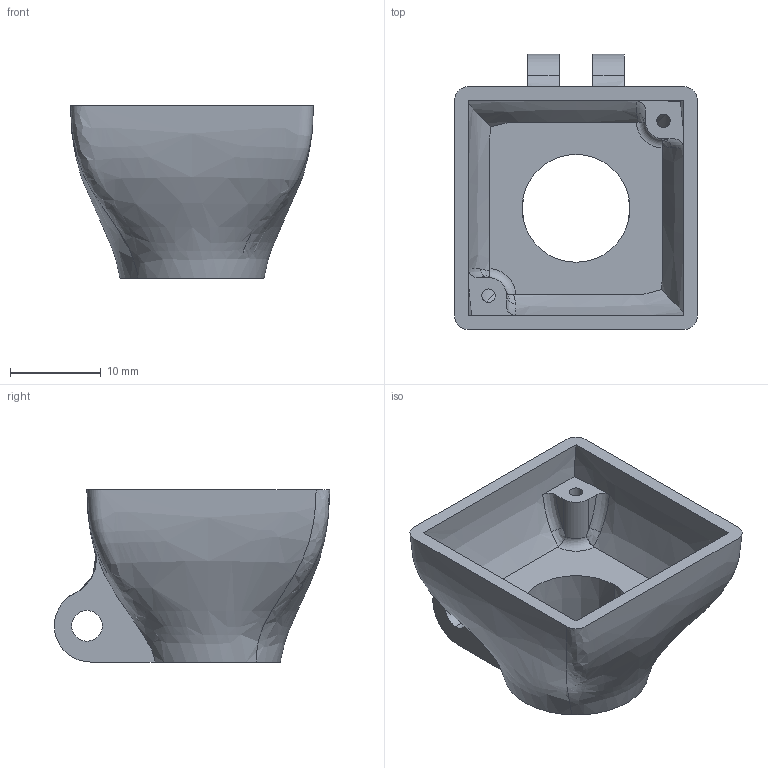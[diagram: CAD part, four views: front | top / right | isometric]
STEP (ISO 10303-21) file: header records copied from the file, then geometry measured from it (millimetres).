
FILE_DESCRIPTION (( 'STEP AP214' ), '1' );
FILE_NAME ('Camera Housing.STEP', '2016-04-20T22:06:43', ( 'Mark' ), ( 'Project-OS.org' ), 'SwSTEP 2.0', 'SolidWorks 2015', '' );
FILE_SCHEMA (( 'AUTOMOTIVE_DESIGN' ));
Length unit declared in the file: millimetre
Products named in the file (1): Camera Housing
Bounding box: 26.8 x 30.4 x 19 mm (x, y, z)
Volume: 3660.5 mm3; surface area: 3897.2 mm2
Topology: 1 solids, 1 shells, 61 faces, 170 edges, 114 vertices
Faces by surface type: bspline 24, plane 19, cylinder 14, cone 2, torus 2
Entity records: 3881 total; most frequent: CARTESIAN_POINT 2469, ORIENTED_EDGE 340, DIRECTION 206, EDGE_CURVE 170, VERTEX_POINT 114, B_SPLINE_CURVE_WITH_KNOTS 86, AXIS2_PLACEMENT_3D 84, EDGE_LOOP 70
